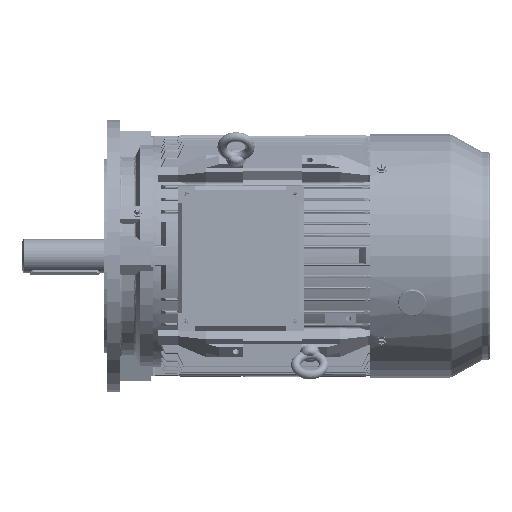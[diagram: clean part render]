
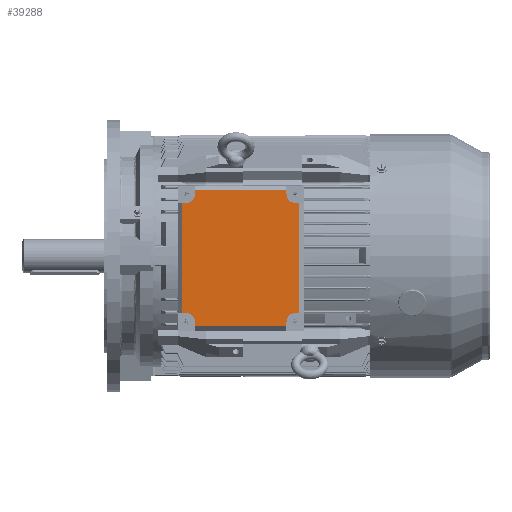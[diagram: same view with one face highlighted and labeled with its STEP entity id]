
A CAD part, top view. The second image highlights one B-rep face of the part: STEP entity #39288.
In plain terms, the highlighted planar face has unit normal (0, 0, 1).
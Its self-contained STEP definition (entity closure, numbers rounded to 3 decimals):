
#2700 = VECTOR ( 'NONE', #65148, 1000. ) ;
#3821 = FACE_OUTER_BOUND ( 'NONE', #171833, .T. ) ;
#5104 = DIRECTION ( 'NONE',  ( 0., 1., 0. ) ) ;
#5415 = LINE ( 'NONE', #87844, #190740 ) ;
#7553 = ORIENTED_EDGE ( 'NONE', *, *, #153544, .F. ) ;
#8089 = VERTEX_POINT ( 'NONE', #79076 ) ;
#10586 = DIRECTION ( 'NONE',  ( 0., 1., 0. ) ) ;
#14699 = EDGE_CURVE ( 'NONE', #183553, #237421, #127967, .T. ) ;
#16077 = CARTESIAN_POINT ( 'NONE',  ( 116.157, 90.864, 241.65 ) ) ;
#17580 = ORIENTED_EDGE ( 'NONE', *, *, #263766, .F. ) ;
#18541 = VECTOR ( 'NONE', #103024, 1000. ) ;
#23984 = LINE ( 'NONE', #153572, #82306 ) ;
#24095 = DIRECTION ( 'NONE',  ( 0., -1., 0. ) ) ;
#24643 = EDGE_CURVE ( 'NONE', #250938, #259727, #246178, .T. ) ;
#26500 = VECTOR ( 'NONE', #10586, 1000. ) ;
#26731 = CARTESIAN_POINT ( 'NONE',  ( -28.843, 90.864, 241.65 ) ) ;
#27709 = DIRECTION ( 'NONE',  ( -1., 0., 0. ) ) ;
#28571 = CARTESIAN_POINT ( 'NONE',  ( -33.843, -51.136, 241.65 ) ) ;
#29644 = VERTEX_POINT ( 'NONE', #91427 ) ;
#31771 = CARTESIAN_POINT ( 'NONE',  ( -17.843, 106.864, 241.65 ) ) ;
#34536 = EDGE_CURVE ( 'NONE', #88876, #29644, #164255, .T. ) ;
#39288 = ADVANCED_FACE ( 'NONE', ( #3821 ), #46994, .T. ) ;
#40584 = VERTEX_POINT ( 'NONE', #219318 ) ;
#45482 = CARTESIAN_POINT ( 'NONE',  ( 100.157, -62.136, 241.65 ) ) ;
#46114 = CARTESIAN_POINT ( 'NONE',  ( 100.157, -68.136, 241.65 ) ) ;
#46994 = PLANE ( 'NONE',  #125565 ) ;
#48036 = EDGE_CURVE ( 'NONE', #159181, #29644, #243026, .T. ) ;
#49284 = CARTESIAN_POINT ( 'NONE',  ( -17.843, 106.864, 241.65 ) ) ;
#50285 = DIRECTION ( 'NONE',  ( 1., 0., 0. ) ) ;
#50405 = EDGE_CURVE ( 'NONE', #149086, #154252, #111453, .T. ) ;
#54920 = ORIENTED_EDGE ( 'NONE', *, *, #24643, .T. ) ;
#55338 = ORIENTED_EDGE ( 'NONE', *, *, #169290, .F. ) ;
#57157 = VECTOR ( 'NONE', #180923, 1000. ) ;
#57291 = EDGE_CURVE ( 'NONE', #163785, #212348, #85650, .T. ) ;
#58546 = CARTESIAN_POINT ( 'NONE',  ( 111.157, -62.136, 241.65 ) ) ;
#65148 = DIRECTION ( 'NONE',  ( 1., 0., 0. ) ) ;
#65886 = CARTESIAN_POINT ( 'NONE',  ( -39.843, -51.136, 241.65 ) ) ;
#67217 = CARTESIAN_POINT ( 'NONE',  ( -28.843, 101.864, 241.65 ) ) ;
#67738 = VECTOR ( 'NONE', #147647, 1000. ) ;
#72555 = CARTESIAN_POINT ( 'NONE',  ( 100.157, -74.136, 241.65 ) ) ;
#73299 = EDGE_CURVE ( 'NONE', #8089, #163785, #185468, .T. ) ;
#76160 = DIRECTION ( 'NONE',  ( 0., 1., 0. ) ) ;
#77375 = VECTOR ( 'NONE', #128025, 1000. ) ;
#79076 = CARTESIAN_POINT ( 'NONE',  ( -33.843, 90.864, 241.65 ) ) ;
#79736 = EDGE_CURVE ( 'NONE', #250938, #260506, #23984, .T. ) ;
#81557 = VECTOR ( 'NONE', #239999, 1000. ) ;
#81742 = ORIENTED_EDGE ( 'NONE', *, *, #194089, .F. ) ;
#82054 = EDGE_CURVE ( 'NONE', #212348, #154252, #174038, .T. ) ;
#82306 = VECTOR ( 'NONE', #195444, 1000. ) ;
#85650 = CIRCLE ( 'NONE', #258209, 11. ) ;
#86206 = DIRECTION ( 'NONE',  ( 0., 0., 1. ) ) ;
#86258 = CARTESIAN_POINT ( 'NONE',  ( -17.843, -68.136, 241.65 ) ) ;
#86874 = LINE ( 'NONE', #186918, #67738 ) ;
#87844 = CARTESIAN_POINT ( 'NONE',  ( 122.157, -51.136, 241.65 ) ) ;
#88876 = VERTEX_POINT ( 'NONE', #106793 ) ;
#91427 = CARTESIAN_POINT ( 'NONE',  ( 116.157, 90.864, 241.65 ) ) ;
#94036 = VECTOR ( 'NONE', #50285, 1000. ) ;
#97989 = ORIENTED_EDGE ( 'NONE', *, *, #188420, .T. ) ;
#100066 = CARTESIAN_POINT ( 'NONE',  ( -28.843, -62.136, 241.65 ) ) ;
#103024 = DIRECTION ( 'NONE',  ( 1., 0., 0. ) ) ;
#104028 = ORIENTED_EDGE ( 'NONE', *, *, #79736, .F. ) ;
#105117 = CARTESIAN_POINT ( 'NONE',  ( 111.157, -51.136, 241.65 ) ) ;
#106793 = CARTESIAN_POINT ( 'NONE',  ( 111.157, 90.864, 241.65 ) ) ;
#106835 = CIRCLE ( 'NONE', #266497, 11. ) ;
#111453 = LINE ( 'NONE', #49284, #200243 ) ;
#113102 = LINE ( 'NONE', #72555, #81557 ) ;
#116358 = DIRECTION ( 'NONE',  ( 0., -1., 0. ) ) ;
#116837 = EDGE_CURVE ( 'NONE', #237421, #259727, #113102, .T. ) ;
#119820 = CARTESIAN_POINT ( 'NONE',  ( 100.157, 112.864, 241.65 ) ) ;
#122041 = CARTESIAN_POINT ( 'NONE',  ( -39.843, 90.864, 241.65 ) ) ;
#125565 = AXIS2_PLACEMENT_3D ( 'NONE', #253634, #147007, #24095 ) ;
#126536 = ORIENTED_EDGE ( 'NONE', *, *, #50405, .T. ) ;
#127967 = CIRCLE ( 'NONE', #227114, 11. ) ;
#128025 = DIRECTION ( 'NONE',  ( -1., 0., 0. ) ) ;
#138313 = DIRECTION ( 'NONE',  ( 0., -1., 0. ) ) ;
#147007 = DIRECTION ( 'NONE',  ( 0., 0., 1. ) ) ;
#147647 = DIRECTION ( 'NONE',  ( 0., -1., 0. ) ) ;
#149086 = VERTEX_POINT ( 'NONE', #232401 ) ;
#149766 = ORIENTED_EDGE ( 'NONE', *, *, #116837, .F. ) ;
#150937 = LINE ( 'NONE', #65886, #77375 ) ;
#153544 = EDGE_CURVE ( 'NONE', #40584, #175913, #150937, .T. ) ;
#153572 = CARTESIAN_POINT ( 'NONE',  ( -17.843, -74.136, 241.65 ) ) ;
#154252 = VERTEX_POINT ( 'NONE', #31771 ) ;
#154504 = CARTESIAN_POINT ( 'NONE',  ( -17.843, -62.136, 241.65 ) ) ;
#156841 = VECTOR ( 'NONE', #246689, 1000. ) ;
#159181 = VERTEX_POINT ( 'NONE', #168753 ) ;
#163785 = VERTEX_POINT ( 'NONE', #26731 ) ;
#164255 = LINE ( 'NONE', #196188, #94036 ) ;
#168753 = CARTESIAN_POINT ( 'NONE',  ( 116.157, -51.136, 241.65 ) ) ;
#169290 = EDGE_CURVE ( 'NONE', #159181, #183553, #5415, .T. ) ;
#170526 = CARTESIAN_POINT ( 'NONE',  ( -17.843, 101.864, 241.65 ) ) ;
#171833 = EDGE_LOOP ( 'NONE', ( #55338, #246592, #232254, #17580, #214348, #126536, #205018, #233184, #240015, #97989, #7553, #81742, #104028, #54920, #149766, #239452 ) ) ;
#174038 = LINE ( 'NONE', #195633, #26500 ) ;
#175913 = VERTEX_POINT ( 'NONE', #28571 ) ;
#177081 = CARTESIAN_POINT ( 'NONE',  ( 100.157, 101.864, 241.65 ) ) ;
#180923 = DIRECTION ( 'NONE',  ( 0., 1., 0. ) ) ;
#180982 = CIRCLE ( 'NONE', #228387, 11. ) ;
#182458 = DIRECTION ( 'NONE',  ( 0., 0., 1. ) ) ;
#183553 = VERTEX_POINT ( 'NONE', #105117 ) ;
#185468 = LINE ( 'NONE', #122041, #2700 ) ;
#186918 = CARTESIAN_POINT ( 'NONE',  ( -33.843, -51.136, 241.65 ) ) ;
#188420 = EDGE_CURVE ( 'NONE', #8089, #175913, #86874, .T. ) ;
#189067 = EDGE_CURVE ( 'NONE', #149086, #257879, #206145, .T. ) ;
#190740 = VECTOR ( 'NONE', #212057, 1000. ) ;
#194089 = EDGE_CURVE ( 'NONE', #260506, #40584, #106835, .T. ) ;
#195444 = DIRECTION ( 'NONE',  ( 0., 1., 0. ) ) ;
#195633 = CARTESIAN_POINT ( 'NONE',  ( -17.843, 112.864, 241.65 ) ) ;
#196188 = CARTESIAN_POINT ( 'NONE',  ( 122.157, 90.864, 241.65 ) ) ;
#200243 = VECTOR ( 'NONE', #27709, 1000. ) ;
#204307 = CARTESIAN_POINT ( 'NONE',  ( 100.157, -68.136, 241.65 ) ) ;
#205018 = ORIENTED_EDGE ( 'NONE', *, *, #82054, .F. ) ;
#206145 = LINE ( 'NONE', #119820, #156841 ) ;
#212057 = DIRECTION ( 'NONE',  ( -1., 0., 0. ) ) ;
#212348 = VERTEX_POINT ( 'NONE', #170526 ) ;
#214348 = ORIENTED_EDGE ( 'NONE', *, *, #189067, .F. ) ;
#219318 = CARTESIAN_POINT ( 'NONE',  ( -28.843, -51.136, 241.65 ) ) ;
#220711 = DIRECTION ( 'NONE',  ( 0., 0., 1. ) ) ;
#224706 = CARTESIAN_POINT ( 'NONE',  ( 111.157, 101.864, 241.65 ) ) ;
#227114 = AXIS2_PLACEMENT_3D ( 'NONE', #58546, #243576, #76160 ) ;
#228387 = AXIS2_PLACEMENT_3D ( 'NONE', #224706, #220711, #138313 ) ;
#232254 = ORIENTED_EDGE ( 'NONE', *, *, #34536, .F. ) ;
#232401 = CARTESIAN_POINT ( 'NONE',  ( 100.157, 106.864, 241.65 ) ) ;
#233184 = ORIENTED_EDGE ( 'NONE', *, *, #57291, .F. ) ;
#237421 = VERTEX_POINT ( 'NONE', #45482 ) ;
#239452 = ORIENTED_EDGE ( 'NONE', *, *, #14699, .F. ) ;
#239999 = DIRECTION ( 'NONE',  ( 0., -1., 0. ) ) ;
#240015 = ORIENTED_EDGE ( 'NONE', *, *, #73299, .F. ) ;
#243026 = LINE ( 'NONE', #16077, #57157 ) ;
#243576 = DIRECTION ( 'NONE',  ( 0., 0., 1. ) ) ;
#246178 = LINE ( 'NONE', #204307, #18541 ) ;
#246592 = ORIENTED_EDGE ( 'NONE', *, *, #48036, .T. ) ;
#246689 = DIRECTION ( 'NONE',  ( 0., -1., 0. ) ) ;
#250938 = VERTEX_POINT ( 'NONE', #86258 ) ;
#253634 = CARTESIAN_POINT ( 'NONE',  ( -39.843, 112.864, 241.65 ) ) ;
#257879 = VERTEX_POINT ( 'NONE', #177081 ) ;
#258209 = AXIS2_PLACEMENT_3D ( 'NONE', #67217, #86206, #5104 ) ;
#259727 = VERTEX_POINT ( 'NONE', #46114 ) ;
#260506 = VERTEX_POINT ( 'NONE', #154504 ) ;
#263766 = EDGE_CURVE ( 'NONE', #257879, #88876, #180982, .T. ) ;
#266497 = AXIS2_PLACEMENT_3D ( 'NONE', #100066, #182458, #116358 ) ;
